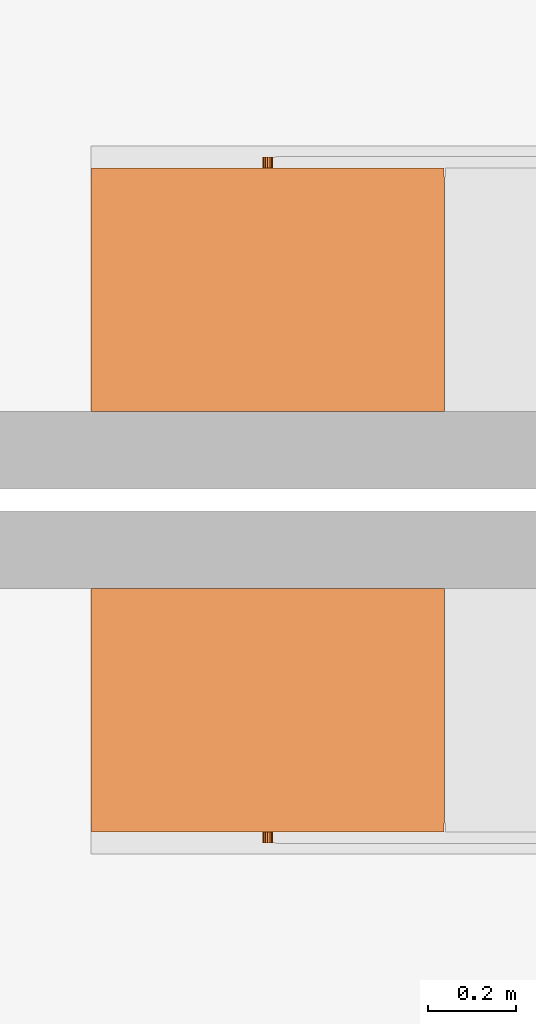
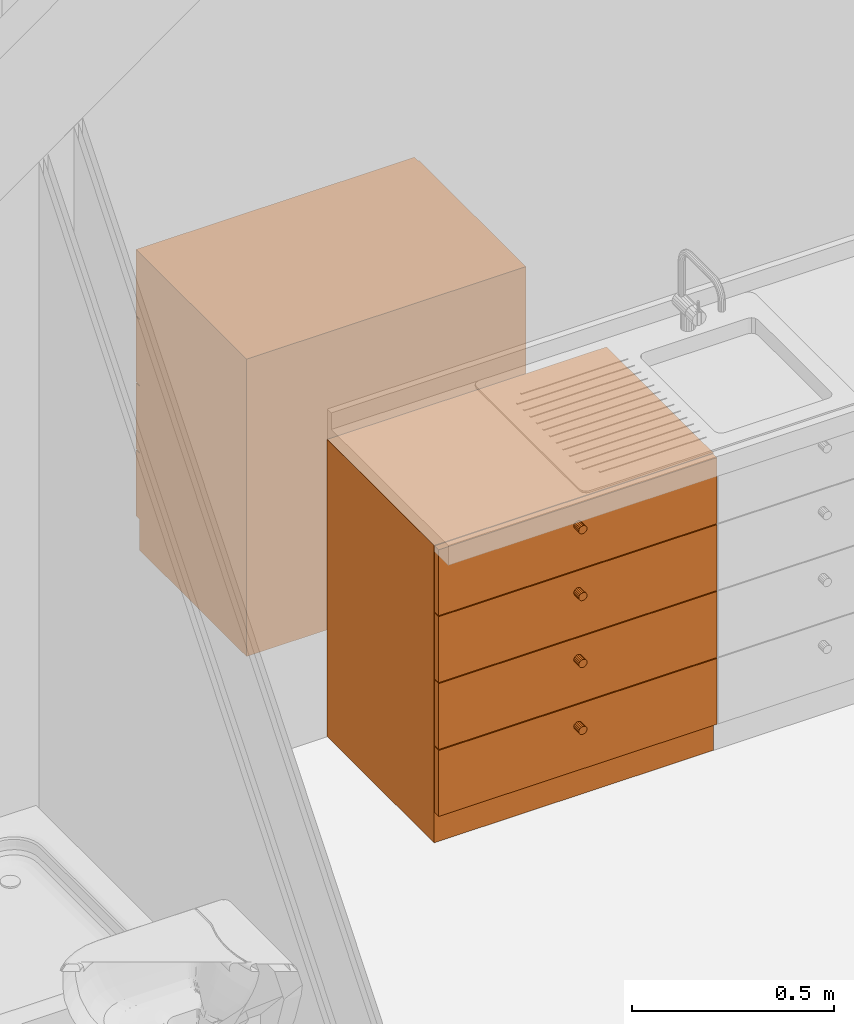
# One storey, part 18 of 28: 2 proxies.
"""IFC4 building model written with IfcOpenShell, lengths in metres."""

from ifc_helpers import new_model, entity, si_unit, converted_unit, derived_unit, direction, frame, origin_with_axes, place, context, subcontext, project, spatial, triangles, type_object, element, save


model = new_model("IFC4")

# Units and contexts
model_context = context("Model", 3, precision=1e-05, world=origin_with_axes(), true_north=direction((-0.526213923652, 0.850352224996)))
body_context = subcontext(model_context, "Body", "Model", "MODEL_VIEW")
ifc_project = project(units=[si_unit("LENGTHUNIT", "METRE"), si_unit("AREAUNIT", "SQUARE_METRE"), si_unit("VOLUMEUNIT", "CUBIC_METRE"), converted_unit("PLANEANGLEUNIT", "DEGREE", entity("IfcPlaneAngleMeasure", 0.0174532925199), si_unit("PLANEANGLEUNIT", "RADIAN"), dimensions=[0, 0, 0, 0, 0, 0, 0]), si_unit("SOLIDANGLEUNIT", "STERADIAN"), converted_unit("TIMEUNIT", "Year", entity("IfcTimeMeasure", 31556926.0), si_unit("TIMEUNIT", "SECOND"), dimensions=[0, 0, 1, 0, 0, 0, 0]), si_unit("MASSUNIT", "GRAM", prefix="KILO"), si_unit("THERMODYNAMICTEMPERATUREUNIT", "DEGREE_CELSIUS"), si_unit("LUMINOUSINTENSITYUNIT", "LUMEN"), si_unit("ENERGYUNIT", "JOULE", prefix="MEGA"), derived_unit("THERMALCONDUCTANCEUNIT", [(si_unit("POWERUNIT", "WATT"), 1), (si_unit("LENGTHUNIT", "METRE"), -1), (si_unit("THERMODYNAMICTEMPERATUREUNIT", "KELVIN"), -1)]), derived_unit("SPECIFICHEATCAPACITYUNIT", [(si_unit("ENERGYUNIT", "JOULE"), 1), (si_unit("MASSUNIT", "GRAM", prefix="KILO"), -1), (si_unit("THERMODYNAMICTEMPERATUREUNIT", "KELVIN"), -1)]), derived_unit("MASSDENSITYUNIT", [(si_unit("MASSUNIT", "GRAM", prefix="KILO"), 1), (si_unit("VOLUMEUNIT", "CUBIC_METRE"), -1)])], contexts=[model_context])

# Site, building, storey, space
site_placement = place(None, origin_with_axes())
site = spatial("IfcSite", under=ifc_project, at=site_placement, Name="Gelände", CompositionType="ELEMENT")
building_placement = place(site_placement, origin_with_axes())
building = spatial("IfcBuilding", under=site, at=building_placement, Name="Haus vom Nikolaus", CompositionType="ELEMENT")
storey_placement = place(building_placement, origin_with_axes())
storey = spatial("IfcBuildingStorey", under=building, at=storey_placement, Name="EG", CompositionType="ELEMENT", Elevation=0.0)
space_placement = place(storey_placement, frame((-3.09538684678, 5.36483190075, 0.0), z_axis=(0.0, 0.0, 1.0), x_axis=(1.0, 0.0, 0.0)))
space = spatial("IfcSpace", under=storey, at=space_placement, Name="EG", CompositionType="ELEMENT")

# Proxies
building_element_proxy_type = type_object("IfcBuildingElementProxyType", Name="Unterschrank Mehrfach-Schublade 22", PredefinedType="NOTDEFINED")
proxy_1_placement = place(space_placement, frame((9.96038446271, 2.87500017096, 0.2), z_axis=(0.0, 0.0, 1.0), x_axis=(-1.0, 0.0, 0.0)))
element("IfcBuildingElementProxy", 1, at=proxy_1_placement, inside=space, type_object=building_element_proxy_type, Name="Küche-005", PredefinedType="NOTDEFINED", context=body_context, shape_type="Tessellation", body=[
    triangles([(0.7985, 0.05, 0.0915), (0.0015, 0.07, 0.0915), (0.7985, 0.07, 0.0915), (0.0015, 0.05, 0.0915), (0.7985, 0.07, 0.291), (0.0015, 0.07, 0.291), (0.7985, 0.05, 0.291), (0.0015, 0.05, 0.291)], [[1, 2, 3], [1, 4, 2], [5, 2, 6], [5, 3, 2], [7, 3, 5], [7, 1, 3], [7, 4, 1], [7, 8, 4], [4, 6, 2], [4, 8, 6], [8, 5, 6], [8, 7, 5]], closed=True),
    triangles([(0.41108655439, 0.05, 0.232092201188), (0.391514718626, 0.05, 0.219014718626), (0.404592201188, 0.05, 0.23858655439), (0.38891344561, 0.05, 0.232092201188), (0.388, 0.05, 0.2275), (0.38891344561, 0.05, 0.222907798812), (0.391514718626, 0.05, 0.235985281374), (0.4, 0.05, 0.2395), (0.395407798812, 0.05, 0.23858655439), (0.408485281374, 0.05, 0.235985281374), (0.41108655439, 0.05, 0.222907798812), (0.412, 0.05, 0.2275), (0.404592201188, 0.05, 0.21641344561), (0.408485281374, 0.05, 0.219014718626), (0.395407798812, 0.05, 0.21641344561), (0.4, 0.05, 0.2155), (0.395407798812, 0.025, 0.21641344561), (0.391514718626, 0.025, 0.219014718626), (0.38891344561, 0.025, 0.222907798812), (0.388, 0.025, 0.2275), (0.38891344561, 0.025, 0.232092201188), (0.391514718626, 0.025, 0.235985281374), (0.395407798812, 0.025, 0.23858655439), (0.4, 0.025, 0.2395), (0.404592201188, 0.025, 0.23858655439), (0.408485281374, 0.025, 0.235985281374), (0.41108655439, 0.025, 0.232092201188), (0.412, 0.025, 0.2275), (0.41108655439, 0.025, 0.222907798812), (0.408485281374, 0.025, 0.219014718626), (0.404592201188, 0.025, 0.21641344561), (0.4, 0.025, 0.2155)], [[1, 2, 3], [4, 2, 5], [5, 2, 6], [7, 2, 4], [8, 7, 9], [3, 7, 8], [1, 3, 10], [7, 3, 2], [11, 1, 12], [1, 11, 2], [13, 11, 14], [2, 11, 15], [16, 11, 13], [11, 16, 15], [17, 2, 15], [17, 18, 2], [18, 6, 2], [18, 19, 6], [19, 5, 6], [19, 20, 5], [20, 4, 5], [20, 21, 4], [21, 7, 4], [21, 22, 7], [22, 9, 7], [22, 23, 9], [23, 8, 9], [23, 24, 8], [24, 3, 8], [24, 25, 3], [25, 10, 3], [25, 26, 10], [26, 1, 10], [26, 27, 1], [27, 12, 1], [27, 28, 12], [28, 11, 12], [28, 29, 11], [30, 11, 29], [11, 30, 14], [30, 13, 14], [30, 31, 13], [31, 16, 13], [31, 32, 16], [32, 15, 16], [32, 17, 15], [22, 19, 25], [18, 32, 30], [30, 32, 31], [27, 18, 29], [27, 29, 28], [18, 27, 19], [22, 25, 24], [25, 27, 26], [22, 24, 23], [19, 22, 21], [19, 21, 20], [25, 19, 27], [29, 18, 30], [32, 18, 17]], closed=True),
    triangles([(0.7985, 0.05, 0.294), (0.0015, 0.07, 0.294), (0.7985, 0.07, 0.294), (0.0015, 0.05, 0.294), (0.7985, 0.07, 0.4935), (0.0015, 0.07, 0.4935), (0.7985, 0.05, 0.4935), (0.0015, 0.05, 0.4935)], [[1, 2, 3], [1, 4, 2], [5, 2, 6], [5, 3, 2], [7, 3, 5], [7, 1, 3], [7, 4, 1], [7, 8, 4], [4, 6, 2], [4, 8, 6], [8, 5, 6], [8, 7, 5]], closed=True),
    triangles([(0.404592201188, 0.05, 0.41891344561), (0.41108655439, 0.05, 0.434592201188), (0.412, 0.05, 0.43), (0.38891344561, 0.05, 0.434592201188), (0.38891344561, 0.05, 0.425407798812), (0.388, 0.05, 0.43), (0.4, 0.05, 0.418), (0.395407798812, 0.05, 0.44108655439), (0.391514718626, 0.05, 0.438485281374), (0.404592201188, 0.05, 0.44108655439), (0.408485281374, 0.05, 0.438485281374), (0.4, 0.05, 0.442), (0.41108655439, 0.05, 0.425407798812), (0.408485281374, 0.05, 0.421514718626), (0.391514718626, 0.05, 0.421514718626), (0.395407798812, 0.05, 0.41891344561), (0.395407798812, 0.025, 0.41891344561), (0.391514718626, 0.025, 0.421514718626), (0.38891344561, 0.025, 0.425407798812), (0.388, 0.025, 0.43), (0.38891344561, 0.025, 0.434592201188), (0.391514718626, 0.025, 0.438485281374), (0.395407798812, 0.025, 0.44108655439), (0.4, 0.025, 0.442), (0.404592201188, 0.025, 0.44108655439), (0.408485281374, 0.025, 0.438485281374), (0.41108655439, 0.025, 0.434592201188), (0.412, 0.025, 0.43), (0.41108655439, 0.025, 0.425407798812), (0.408485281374, 0.025, 0.421514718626), (0.404592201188, 0.025, 0.41891344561), (0.4, 0.025, 0.418)], [[1, 2, 3], [4, 5, 6], [7, 5, 1], [1, 5, 4], [8, 4, 9], [10, 4, 8], [2, 10, 11], [10, 8, 12], [2, 1, 10], [10, 1, 4], [13, 1, 3], [1, 13, 14], [5, 7, 15], [15, 7, 16], [17, 15, 16], [17, 18, 15], [18, 5, 15], [18, 19, 5], [19, 6, 5], [19, 20, 6], [20, 4, 6], [20, 21, 4], [21, 9, 4], [21, 22, 9], [22, 8, 9], [22, 23, 8], [23, 12, 8], [23, 24, 12], [24, 10, 12], [24, 25, 10], [25, 11, 10], [25, 26, 11], [26, 2, 11], [26, 27, 2], [27, 3, 2], [27, 28, 3], [28, 13, 3], [28, 29, 13], [30, 13, 29], [13, 30, 14], [30, 1, 14], [30, 31, 1], [31, 7, 1], [31, 32, 7], [32, 16, 7], [32, 17, 16], [21, 25, 24], [29, 31, 30], [29, 32, 31], [18, 32, 29], [21, 29, 28], [21, 23, 22], [21, 24, 23], [25, 27, 26], [25, 21, 27], [27, 21, 28], [19, 21, 20], [18, 29, 21], [18, 21, 19], [32, 18, 17]], closed=True),
    triangles([(0.78, 0.07, 0.3125), (0.02, 0.07, 0.2925), (0.78, 0.07, 0.2925), (0.02, 0.07, 0.3125), (0.78, 0.58, 0.2925), (0.02, 0.58, 0.2925), (0.78, 0.58, 0.3125), (0.02, 0.58, 0.3125)], [[1, 2, 3], [1, 4, 2], [5, 2, 6], [5, 3, 2], [7, 3, 5], [7, 1, 3], [7, 4, 1], [7, 8, 4], [4, 6, 2], [4, 8, 6], [8, 5, 6], [8, 7, 5]], closed=True),
    triangles([(0.7985, 0.05, 0.4965), (0.0015, 0.07, 0.4965), (0.7985, 0.07, 0.4965), (0.0015, 0.05, 0.4965), (0.7985, 0.07, 0.696), (0.0015, 0.07, 0.696), (0.7985, 0.05, 0.696), (0.0015, 0.05, 0.696)], [[1, 2, 3], [1, 4, 2], [5, 2, 6], [5, 3, 2], [7, 3, 5], [7, 1, 3], [7, 4, 1], [7, 8, 4], [4, 6, 2], [4, 8, 6], [8, 5, 6], [8, 7, 5]], closed=True),
    triangles([(0.391514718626, 0.05, 0.624014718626), (0.404592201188, 0.05, 0.64358655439), (0.395407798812, 0.05, 0.62141344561), (0.38891344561, 0.05, 0.637092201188), (0.388, 0.05, 0.6325), (0.38891344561, 0.05, 0.627907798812), (0.395407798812, 0.05, 0.64358655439), (0.391514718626, 0.05, 0.640985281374), (0.41108655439, 0.05, 0.637092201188), (0.408485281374, 0.05, 0.640985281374), (0.4, 0.05, 0.6445), (0.412, 0.05, 0.6325), (0.404592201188, 0.05, 0.62141344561), (0.41108655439, 0.05, 0.627907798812), (0.408485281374, 0.05, 0.624014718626), (0.4, 0.05, 0.6205), (0.395407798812, 0.025, 0.62141344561), (0.391514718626, 0.025, 0.624014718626), (0.38891344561, 0.025, 0.627907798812), (0.388, 0.025, 0.6325), (0.38891344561, 0.025, 0.637092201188), (0.391514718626, 0.025, 0.640985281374), (0.395407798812, 0.025, 0.64358655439), (0.4, 0.025, 0.6445), (0.404592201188, 0.025, 0.64358655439), (0.408485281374, 0.025, 0.640985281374), (0.41108655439, 0.025, 0.637092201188), (0.412, 0.025, 0.6325), (0.41108655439, 0.025, 0.627907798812), (0.408485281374, 0.025, 0.624014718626), (0.404592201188, 0.025, 0.62141344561), (0.4, 0.025, 0.6205)], [[1, 2, 3], [4, 1, 5], [5, 1, 6], [7, 4, 8], [4, 7, 1], [2, 1, 7], [9, 2, 10], [2, 7, 11], [12, 2, 9], [13, 2, 12], [14, 13, 12], [13, 14, 15], [2, 13, 3], [16, 3, 13], [17, 1, 3], [17, 18, 1], [18, 6, 1], [18, 19, 6], [19, 5, 6], [19, 20, 5], [20, 4, 5], [20, 21, 4], [21, 8, 4], [21, 22, 8], [22, 7, 8], [22, 23, 7], [23, 11, 7], [23, 24, 11], [24, 2, 11], [24, 25, 2], [25, 10, 2], [25, 26, 10], [26, 9, 10], [26, 27, 9], [27, 12, 9], [27, 28, 12], [28, 14, 12], [28, 29, 14], [30, 14, 29], [14, 30, 15], [30, 13, 15], [30, 31, 13], [31, 16, 13], [31, 32, 16], [32, 3, 16], [32, 17, 3], [30, 25, 17], [32, 30, 17], [30, 32, 31], [25, 30, 29], [25, 28, 27], [28, 25, 29], [23, 25, 24], [25, 27, 26], [22, 25, 23], [20, 25, 22], [18, 25, 20], [20, 22, 21], [18, 20, 19], [25, 18, 17]], closed=True),
    triangles([(0.78, 0.07, 0.515), (0.02, 0.07, 0.495), (0.78, 0.07, 0.495), (0.02, 0.07, 0.515), (0.78, 0.58, 0.495), (0.02, 0.58, 0.495), (0.78, 0.58, 0.515), (0.02, 0.58, 0.515)], [[1, 2, 3], [1, 4, 2], [5, 2, 6], [5, 3, 2], [7, 3, 5], [7, 1, 3], [7, 4, 1], [7, 8, 4], [4, 6, 2], [4, 8, 6], [8, 5, 6], [8, 7, 5]], closed=True),
    triangles([(0.7985, 0.05, 0.699), (0.0015, 0.07, 0.699), (0.7985, 0.07, 0.699), (0.0015, 0.05, 0.699), (0.7985, 0.07, 0.8985), (0.0015, 0.07, 0.8985), (0.7985, 0.05, 0.8985), (0.0015, 0.05, 0.8985)], [[1, 2, 3], [1, 4, 2], [5, 2, 6], [5, 3, 2], [7, 3, 5], [7, 1, 3], [7, 4, 1], [7, 8, 4], [4, 6, 2], [4, 8, 6], [8, 5, 6], [8, 7, 5]], closed=True),
    triangles([(0.404592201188, 0.05, 0.84608655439), (0.395407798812, 0.05, 0.82391344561), (0.4, 0.05, 0.847), (0.388, 0.05, 0.835), (0.38891344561, 0.05, 0.830407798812), (0.391514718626, 0.05, 0.826514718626), (0.391514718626, 0.05, 0.843485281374), (0.38891344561, 0.05, 0.839592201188), (0.395407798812, 0.05, 0.84608655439), (0.41108655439, 0.05, 0.839592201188), (0.408485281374, 0.05, 0.843485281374), (0.404592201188, 0.05, 0.82391344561), (0.412, 0.05, 0.835), (0.41108655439, 0.05, 0.830407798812), (0.408485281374, 0.05, 0.826514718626), (0.4, 0.05, 0.823), (0.395407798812, 0.025, 0.82391344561), (0.391514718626, 0.025, 0.826514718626), (0.38891344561, 0.025, 0.830407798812), (0.388, 0.025, 0.835), (0.38891344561, 0.025, 0.839592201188), (0.391514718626, 0.025, 0.843485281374), (0.395407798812, 0.025, 0.84608655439), (0.4, 0.025, 0.847), (0.404592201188, 0.025, 0.84608655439), (0.408485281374, 0.025, 0.843485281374), (0.41108655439, 0.025, 0.839592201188), (0.412, 0.025, 0.835), (0.41108655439, 0.025, 0.830407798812), (0.408485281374, 0.025, 0.826514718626), (0.404592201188, 0.025, 0.82391344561), (0.4, 0.025, 0.823)], [[1, 2, 3], [4, 2, 5], [5, 2, 6], [7, 4, 8], [9, 4, 7], [4, 9, 2], [10, 1, 11], [9, 3, 2], [1, 10, 2], [12, 13, 14], [12, 14, 15], [13, 12, 10], [10, 12, 2], [16, 2, 12], [17, 6, 2], [17, 18, 6], [18, 5, 6], [18, 19, 5], [19, 4, 5], [19, 20, 4], [20, 8, 4], [20, 21, 8], [21, 7, 8], [21, 22, 7], [22, 9, 7], [22, 23, 9], [23, 3, 9], [23, 24, 3], [24, 1, 3], [24, 25, 1], [25, 11, 1], [25, 26, 11], [26, 10, 11], [26, 27, 10], [27, 13, 10], [27, 28, 13], [28, 14, 13], [28, 29, 14], [30, 14, 29], [14, 30, 15], [30, 12, 15], [30, 31, 12], [31, 16, 12], [31, 32, 16], [32, 2, 16], [32, 17, 2], [29, 25, 17], [29, 31, 30], [31, 17, 32], [31, 29, 17], [25, 28, 27], [25, 27, 26], [23, 25, 24], [28, 25, 29], [22, 25, 23], [20, 25, 22], [25, 20, 17], [20, 22, 21], [18, 20, 19], [20, 18, 17]], closed=True),
    triangles([(0.78, 0.07, 0.7175), (0.02, 0.07, 0.6975), (0.78, 0.07, 0.6975), (0.02, 0.07, 0.7175), (0.78, 0.58, 0.6975), (0.02, 0.58, 0.6975), (0.78, 0.58, 0.7175), (0.02, 0.58, 0.7175)], [[1, 2, 3], [1, 4, 2], [5, 2, 6], [5, 3, 2], [7, 3, 5], [7, 1, 3], [7, 4, 1], [7, 8, 4], [4, 6, 2], [4, 8, 6], [8, 5, 6], [8, 7, 5]], closed=True),
    triangles([(0.8, 0.07, 0.09), (0.0, 0.07, 0.0), (0.8, 0.07, 0.0), (0.0, 0.07, 0.09), (0.8, 0.6, 0.0), (0.0, 0.6, 0.0), (0.8, 0.6, 0.09), (0.0, 0.6, 0.09)], [[1, 2, 3], [1, 4, 2], [5, 2, 6], [5, 3, 2], [7, 3, 5], [7, 1, 3], [7, 4, 1], [7, 8, 4], [4, 6, 2], [4, 8, 6], [8, 5, 6], [8, 7, 5]], closed=True),
    triangles([(0.02, 0.07, 0.9), (0.0, 0.07, 0.88), (0.02, 0.07, 0.88), (0.0, 0.07, 0.9), (0.02, 0.6, 0.88), (0.78, 0.07, 0.88), (0.78, 0.6, 0.88), (0.0, 0.6, 0.88), (0.8, 0.07, 0.88), (0.8, 0.6, 0.88), (0.78, 0.07, 0.9), (0.0, 0.6, 0.9), (0.02, 0.6, 0.9), (0.78, 0.6, 0.9), (0.8, 0.6, 0.9), (0.8, 0.07, 0.9)], [[1, 2, 3], [1, 4, 2], [3, 2, 5], [6, 5, 7], [5, 2, 8], [9, 7, 10], [6, 7, 9], [3, 5, 6], [11, 3, 6], [11, 1, 3], [12, 4, 13], [14, 11, 15], [11, 14, 1], [15, 11, 16], [1, 13, 4], [13, 1, 14], [4, 8, 2], [4, 12, 8], [12, 5, 8], [12, 13, 5], [13, 7, 5], [13, 14, 7], [14, 10, 7], [14, 15, 10], [15, 9, 10], [15, 16, 9], [16, 6, 9], [16, 11, 6]], closed=True),
    triangles([(0.02, 0.07, 0.11), (0.0, 0.07, 0.09), (0.02, 0.07, 0.09), (0.0, 0.07, 0.11), (0.02, 0.6, 0.09), (0.78, 0.07, 0.09), (0.78, 0.6, 0.09), (0.0, 0.6, 0.09), (0.8, 0.07, 0.09), (0.8, 0.6, 0.09), (0.78, 0.07, 0.11), (0.0, 0.6, 0.11), (0.02, 0.6, 0.11), (0.78, 0.6, 0.11), (0.8, 0.6, 0.11), (0.8, 0.07, 0.11)], [[1, 2, 3], [1, 4, 2], [3, 2, 5], [6, 5, 7], [5, 2, 8], [9, 7, 10], [6, 7, 9], [3, 5, 6], [11, 3, 6], [11, 1, 3], [12, 4, 13], [14, 11, 15], [11, 14, 1], [15, 11, 16], [1, 13, 4], [13, 1, 14], [4, 8, 2], [4, 12, 8], [12, 5, 8], [12, 13, 5], [13, 7, 5], [13, 14, 7], [14, 10, 7], [14, 15, 10], [15, 9, 10], [15, 16, 9], [16, 6, 9], [16, 11, 6]], closed=True),
    triangles([(0.02, 0.07, 0.88), (0.0, 0.07, 0.11), (0.02, 0.07, 0.11), (0.0, 0.07, 0.88), (0.02, 0.58, 0.11), (0.78, 0.58, 0.11), (0.8, 0.07, 0.11), (0.78, 0.07, 0.11), (0.0, 0.6, 0.11), (0.8, 0.6, 0.11), (0.02, 0.58, 0.88), (0.0, 0.6, 0.88), (0.8, 0.6, 0.88), (0.78, 0.58, 0.88), (0.8, 0.07, 0.88), (0.78, 0.07, 0.88)], [[1, 2, 3], [1, 4, 2], [3, 2, 5], [6, 7, 8], [6, 9, 10], [7, 6, 10], [5, 2, 9], [6, 5, 9], [11, 3, 5], [11, 1, 3], [12, 4, 11], [13, 12, 11], [11, 4, 1], [13, 11, 14], [15, 13, 14], [15, 14, 16], [4, 9, 2], [4, 12, 9], [12, 10, 9], [12, 13, 10], [13, 7, 10], [13, 15, 7], [15, 8, 7], [15, 16, 8], [16, 6, 8], [16, 14, 6], [14, 5, 6], [14, 11, 5]], closed=True),
])
proxy_2_placement = place(space_placement, frame((9.96038446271, 1.27500017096, 0.2), z_axis=(0.0, 0.0, 1.0), x_axis=(1.0, 0.0, 0.0)))
element("IfcBuildingElementProxy", 2, at=proxy_2_placement, inside=space, type_object=building_element_proxy_type, Name="Küche-005", PredefinedType="NOTDEFINED", context=body_context, shape_type="Tessellation", body=[
    triangles([(-0.7985, 0.05, 0.0915), (-0.0015, 0.07, 0.0915), (-0.0015, 0.05, 0.0915), (-0.7985, 0.07, 0.0915), (-0.0015, 0.07, 0.291), (-0.0015, 0.05, 0.291), (-0.7985, 0.05, 0.291), (-0.7985, 0.07, 0.291)], [[1, 2, 3], [1, 4, 2], [3, 5, 6], [3, 2, 5], [7, 3, 6], [7, 1, 3], [7, 4, 1], [7, 8, 4], [8, 2, 4], [8, 5, 2], [6, 8, 7], [6, 5, 8]], closed=True),
    triangles([(-0.391514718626, 0.05, 0.235985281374), (-0.38891344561, 0.05, 0.222907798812), (-0.404592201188, 0.05, 0.23858655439), (-0.391514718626, 0.05, 0.219014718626), (-0.4, 0.05, 0.2155), (-0.408485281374, 0.05, 0.219014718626), (-0.404592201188, 0.05, 0.21641344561), (-0.41108655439, 0.05, 0.232092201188), (-0.41108655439, 0.05, 0.222907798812), (-0.412, 0.05, 0.2275), (-0.4, 0.05, 0.2395), (-0.408485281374, 0.05, 0.235985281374), (-0.395407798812, 0.05, 0.23858655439), (-0.38891344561, 0.05, 0.232092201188), (-0.388, 0.05, 0.2275), (-0.395407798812, 0.05, 0.21641344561), (-0.4, 0.025, 0.2155), (-0.395407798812, 0.025, 0.21641344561), (-0.404592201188, 0.025, 0.21641344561), (-0.408485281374, 0.025, 0.219014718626), (-0.41108655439, 0.025, 0.222907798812), (-0.412, 0.025, 0.2275), (-0.41108655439, 0.025, 0.232092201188), (-0.408485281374, 0.025, 0.235985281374), (-0.404592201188, 0.025, 0.23858655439), (-0.4, 0.025, 0.2395), (-0.395407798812, 0.025, 0.23858655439), (-0.391514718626, 0.025, 0.235985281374), (-0.38891344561, 0.025, 0.232092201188), (-0.388, 0.025, 0.2275), (-0.38891344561, 0.025, 0.222907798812), (-0.391514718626, 0.025, 0.219014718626)], [[1, 2, 3], [4, 5, 6], [6, 5, 7], [8, 4, 9], [8, 9, 10], [4, 8, 2], [1, 3, 11], [3, 8, 12], [1, 11, 13], [2, 1, 14], [2, 14, 15], [3, 2, 8], [9, 4, 6], [5, 4, 16], [17, 16, 18], [17, 5, 16], [19, 5, 17], [19, 7, 5], [20, 7, 19], [20, 6, 7], [9, 20, 21], [20, 9, 6], [22, 9, 21], [22, 10, 9], [23, 10, 22], [23, 8, 10], [24, 8, 23], [24, 12, 8], [25, 12, 24], [25, 3, 12], [26, 3, 25], [26, 11, 3], [27, 11, 26], [27, 13, 11], [28, 13, 27], [28, 1, 13], [29, 1, 28], [29, 14, 1], [30, 14, 29], [30, 15, 14], [31, 15, 30], [31, 2, 15], [32, 2, 31], [32, 4, 2], [18, 4, 32], [18, 16, 4], [23, 32, 25], [29, 32, 30], [30, 32, 31], [28, 32, 29], [26, 28, 27], [25, 28, 26], [23, 25, 24], [28, 25, 32], [21, 23, 22], [23, 21, 32], [19, 21, 20], [32, 21, 18], [17, 21, 19], [21, 17, 18]], closed=True),
    triangles([(-0.7985, 0.05, 0.294), (-0.0015, 0.07, 0.294), (-0.0015, 0.05, 0.294), (-0.7985, 0.07, 0.294), (-0.0015, 0.07, 0.4935), (-0.0015, 0.05, 0.4935), (-0.7985, 0.05, 0.4935), (-0.7985, 0.07, 0.4935)], [[1, 2, 3], [1, 4, 2], [3, 5, 6], [3, 2, 5], [7, 3, 6], [7, 1, 3], [7, 4, 1], [7, 8, 4], [8, 2, 4], [8, 5, 2], [6, 8, 7], [6, 5, 8]], closed=True),
    triangles([(-0.38891344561, 0.05, 0.434592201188), (-0.404592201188, 0.05, 0.44108655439), (-0.4, 0.05, 0.442), (-0.41108655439, 0.05, 0.425407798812), (-0.404592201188, 0.05, 0.41891344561), (-0.408485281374, 0.05, 0.421514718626), (-0.4, 0.05, 0.418), (-0.391514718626, 0.05, 0.421514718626), (-0.412, 0.05, 0.43), (-0.395407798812, 0.05, 0.44108655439), (-0.391514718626, 0.05, 0.438485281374), (-0.41108655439, 0.05, 0.434592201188), (-0.408485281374, 0.05, 0.438485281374), (-0.38891344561, 0.05, 0.425407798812), (-0.388, 0.05, 0.43), (-0.395407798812, 0.05, 0.41891344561), (-0.4, 0.025, 0.418), (-0.395407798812, 0.025, 0.41891344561), (-0.404592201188, 0.025, 0.41891344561), (-0.408485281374, 0.025, 0.421514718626), (-0.41108655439, 0.025, 0.425407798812), (-0.412, 0.025, 0.43), (-0.41108655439, 0.025, 0.434592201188), (-0.408485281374, 0.025, 0.438485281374), (-0.404592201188, 0.025, 0.44108655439), (-0.4, 0.025, 0.442), (-0.395407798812, 0.025, 0.44108655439), (-0.391514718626, 0.025, 0.438485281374), (-0.38891344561, 0.025, 0.434592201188), (-0.388, 0.025, 0.43), (-0.38891344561, 0.025, 0.425407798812), (-0.391514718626, 0.025, 0.421514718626)], [[1, 2, 3], [4, 5, 6], [4, 7, 5], [8, 7, 4], [1, 4, 9], [1, 10, 11], [1, 3, 10], [2, 12, 13], [2, 1, 12], [12, 1, 9], [14, 1, 15], [8, 4, 1], [8, 1, 14], [7, 8, 16], [17, 16, 18], [17, 7, 16], [19, 7, 17], [19, 5, 7], [20, 5, 19], [20, 6, 5], [4, 20, 21], [20, 4, 6], [22, 4, 21], [22, 9, 4], [23, 9, 22], [23, 12, 9], [24, 12, 23], [24, 13, 12], [25, 13, 24], [25, 2, 13], [26, 2, 25], [26, 3, 2], [27, 3, 26], [27, 10, 3], [28, 10, 27], [28, 11, 10], [29, 11, 28], [29, 1, 11], [30, 1, 29], [30, 15, 1], [31, 15, 30], [31, 14, 15], [32, 14, 31], [32, 8, 14], [18, 8, 32], [18, 16, 8], [19, 23, 22], [29, 31, 30], [17, 31, 19], [19, 31, 29], [27, 29, 28], [25, 29, 27], [23, 25, 24], [25, 27, 26], [23, 19, 25], [25, 19, 29], [21, 19, 22], [19, 21, 20], [31, 17, 32], [32, 17, 18]], closed=True),
    triangles([(-0.78, 0.07, 0.3125), (-0.02, 0.07, 0.2925), (-0.02, 0.07, 0.3125), (-0.78, 0.07, 0.2925), (-0.02, 0.58, 0.2925), (-0.02, 0.58, 0.3125), (-0.78, 0.58, 0.3125), (-0.78, 0.58, 0.2925)], [[1, 2, 3], [1, 4, 2], [3, 5, 6], [3, 2, 5], [7, 3, 6], [7, 1, 3], [7, 4, 1], [7, 8, 4], [8, 2, 4], [8, 5, 2], [6, 8, 7], [6, 5, 8]], closed=True),
    triangles([(-0.7985, 0.05, 0.4965), (-0.0015, 0.07, 0.4965), (-0.0015, 0.05, 0.4965), (-0.7985, 0.07, 0.4965), (-0.0015, 0.07, 0.696), (-0.0015, 0.05, 0.696), (-0.7985, 0.05, 0.696), (-0.7985, 0.07, 0.696)], [[1, 2, 3], [1, 4, 2], [3, 5, 6], [3, 2, 5], [7, 3, 6], [7, 1, 3], [7, 4, 1], [7, 8, 4], [8, 2, 4], [8, 5, 2], [6, 8, 7], [6, 5, 8]], closed=True),
    triangles([(-0.408485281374, 0.05, 0.624014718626), (-0.404592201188, 0.05, 0.64358655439), (-0.395407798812, 0.05, 0.62141344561), (-0.4, 0.05, 0.6205), (-0.404592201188, 0.05, 0.62141344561), (-0.41108655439, 0.05, 0.627907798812), (-0.412, 0.05, 0.6325), (-0.41108655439, 0.05, 0.637092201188), (-0.395407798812, 0.05, 0.64358655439), (-0.4, 0.05, 0.6445), (-0.408485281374, 0.05, 0.640985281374), (-0.391514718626, 0.05, 0.640985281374), (-0.388, 0.05, 0.6325), (-0.391514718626, 0.05, 0.624014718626), (-0.38891344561, 0.05, 0.637092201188), (-0.38891344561, 0.05, 0.627907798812), (-0.4, 0.025, 0.6205), (-0.395407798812, 0.025, 0.62141344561), (-0.404592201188, 0.025, 0.62141344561), (-0.408485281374, 0.025, 0.624014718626), (-0.41108655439, 0.025, 0.627907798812), (-0.412, 0.025, 0.6325), (-0.41108655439, 0.025, 0.637092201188), (-0.408485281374, 0.025, 0.640985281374), (-0.404592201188, 0.025, 0.64358655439), (-0.4, 0.025, 0.6445), (-0.395407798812, 0.025, 0.64358655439), (-0.391514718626, 0.025, 0.640985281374), (-0.38891344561, 0.025, 0.637092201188), (-0.388, 0.025, 0.6325), (-0.38891344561, 0.025, 0.627907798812), (-0.391514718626, 0.025, 0.624014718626)], [[1, 2, 3], [4, 1, 3], [1, 4, 5], [2, 1, 6], [2, 7, 8], [7, 2, 6], [9, 2, 10], [2, 8, 11], [12, 2, 9], [13, 2, 12], [14, 2, 13], [13, 12, 15], [14, 13, 16], [2, 14, 3], [17, 3, 18], [17, 4, 3], [19, 4, 17], [19, 5, 4], [20, 5, 19], [20, 1, 5], [6, 20, 21], [20, 6, 1], [22, 6, 21], [22, 7, 6], [23, 7, 22], [23, 8, 7], [24, 8, 23], [24, 11, 8], [25, 11, 24], [25, 2, 11], [26, 2, 25], [26, 10, 2], [27, 10, 26], [27, 9, 10], [28, 9, 27], [28, 12, 9], [29, 12, 28], [29, 15, 12], [30, 15, 29], [30, 13, 15], [31, 13, 30], [31, 16, 13], [32, 16, 31], [32, 14, 16], [18, 14, 32], [18, 3, 14], [32, 25, 18], [29, 32, 30], [30, 32, 31], [27, 29, 28], [29, 27, 32], [25, 32, 27], [23, 25, 24], [25, 27, 26], [22, 25, 23], [19, 25, 22], [21, 19, 22], [19, 21, 20], [25, 19, 18], [17, 18, 19]], closed=True),
    triangles([(-0.78, 0.07, 0.515), (-0.02, 0.07, 0.495), (-0.02, 0.07, 0.515), (-0.78, 0.07, 0.495), (-0.02, 0.58, 0.495), (-0.02, 0.58, 0.515), (-0.78, 0.58, 0.515), (-0.78, 0.58, 0.495)], [[1, 2, 3], [1, 4, 2], [3, 5, 6], [3, 2, 5], [7, 3, 6], [7, 1, 3], [7, 4, 1], [7, 8, 4], [8, 2, 4], [8, 5, 2], [6, 8, 7], [6, 5, 8]], closed=True),
    triangles([(-0.7985, 0.05, 0.699), (-0.0015, 0.07, 0.699), (-0.0015, 0.05, 0.699), (-0.7985, 0.07, 0.699), (-0.0015, 0.07, 0.8985), (-0.0015, 0.05, 0.8985), (-0.7985, 0.05, 0.8985), (-0.7985, 0.07, 0.8985)], [[1, 2, 3], [1, 4, 2], [3, 5, 6], [3, 2, 5], [7, 3, 6], [7, 1, 3], [7, 4, 1], [7, 8, 4], [8, 2, 4], [8, 5, 2], [6, 8, 7], [6, 5, 8]], closed=True),
    triangles([(-0.41108655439, 0.05, 0.830407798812), (-0.404592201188, 0.05, 0.84608655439), (-0.395407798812, 0.05, 0.82391344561), (-0.404592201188, 0.05, 0.82391344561), (-0.408485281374, 0.05, 0.826514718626), (-0.4, 0.05, 0.823), (-0.412, 0.05, 0.835), (-0.41108655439, 0.05, 0.839592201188), (-0.408485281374, 0.05, 0.843485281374), (-0.395407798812, 0.05, 0.84608655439), (-0.4, 0.05, 0.847), (-0.391514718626, 0.05, 0.843485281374), (-0.388, 0.05, 0.835), (-0.38891344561, 0.05, 0.839592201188), (-0.391514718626, 0.05, 0.826514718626), (-0.38891344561, 0.05, 0.830407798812), (-0.4, 0.025, 0.823), (-0.395407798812, 0.025, 0.82391344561), (-0.404592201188, 0.025, 0.82391344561), (-0.408485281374, 0.025, 0.826514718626), (-0.41108655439, 0.025, 0.830407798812), (-0.412, 0.025, 0.835), (-0.41108655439, 0.025, 0.839592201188), (-0.408485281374, 0.025, 0.843485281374), (-0.404592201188, 0.025, 0.84608655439), (-0.4, 0.025, 0.847), (-0.395407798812, 0.025, 0.84608655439), (-0.391514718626, 0.025, 0.843485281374), (-0.38891344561, 0.025, 0.839592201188), (-0.388, 0.025, 0.835), (-0.38891344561, 0.025, 0.830407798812), (-0.391514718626, 0.025, 0.826514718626)], [[1, 2, 3], [1, 4, 5], [4, 3, 6], [4, 1, 3], [2, 7, 8], [2, 8, 9], [10, 2, 11], [7, 2, 1], [12, 2, 10], [13, 2, 12], [2, 13, 3], [13, 12, 14], [15, 13, 16], [13, 15, 3], [17, 3, 18], [17, 6, 3], [19, 6, 17], [19, 4, 6], [20, 4, 19], [20, 5, 4], [1, 20, 21], [20, 1, 5], [22, 1, 21], [22, 7, 1], [23, 7, 22], [23, 8, 7], [24, 8, 23], [24, 9, 8], [25, 9, 24], [25, 2, 9], [26, 2, 25], [26, 11, 2], [27, 11, 26], [27, 10, 11], [28, 10, 27], [28, 12, 10], [29, 12, 28], [29, 14, 12], [30, 14, 29], [30, 13, 14], [31, 13, 30], [31, 16, 13], [32, 16, 31], [32, 15, 16], [18, 15, 32], [18, 3, 15], [25, 18, 26], [30, 18, 31], [31, 18, 32], [28, 30, 29], [27, 30, 28], [30, 27, 18], [23, 25, 24], [27, 26, 18], [25, 23, 18], [19, 22, 21], [19, 21, 20], [22, 19, 23], [23, 19, 18], [17, 18, 19]], closed=True),
    triangles([(-0.78, 0.07, 0.7175), (-0.02, 0.07, 0.6975), (-0.02, 0.07, 0.7175), (-0.78, 0.07, 0.6975), (-0.02, 0.58, 0.6975), (-0.02, 0.58, 0.7175), (-0.78, 0.58, 0.7175), (-0.78, 0.58, 0.6975)], [[1, 2, 3], [1, 4, 2], [3, 5, 6], [3, 2, 5], [7, 3, 6], [7, 1, 3], [7, 4, 1], [7, 8, 4], [8, 2, 4], [8, 5, 2], [6, 8, 7], [6, 5, 8]], closed=True),
    triangles([(-0.8, 0.07, 0.09), (0.0, 0.07, 0.0), (0.0, 0.07, 0.09), (-0.8, 0.07, 0.0), (0.0, 0.6, 0.0), (0.0, 0.6, 0.09), (-0.8, 0.6, 0.09), (-0.8, 0.6, 0.0)], [[1, 2, 3], [1, 4, 2], [3, 5, 6], [3, 2, 5], [7, 3, 6], [7, 1, 3], [7, 4, 1], [7, 8, 4], [8, 2, 4], [8, 5, 2], [6, 8, 7], [6, 5, 8]], closed=True),
    triangles([(-0.02, 0.07, 0.9), (0.0, 0.07, 0.88), (0.0, 0.07, 0.9), (-0.02, 0.07, 0.88), (0.0, 0.6, 0.88), (0.0, 0.6, 0.9), (-0.02, 0.6, 0.9), (-0.78, 0.07, 0.9), (-0.78, 0.6, 0.9), (-0.8, 0.07, 0.9), (-0.8, 0.6, 0.9), (-0.78, 0.07, 0.88), (-0.02, 0.6, 0.88), (-0.78, 0.6, 0.88), (-0.8, 0.6, 0.88), (-0.8, 0.07, 0.88)], [[1, 2, 3], [1, 4, 2], [3, 5, 6], [3, 2, 5], [1, 3, 7], [8, 7, 9], [7, 3, 6], [10, 9, 11], [8, 9, 10], [1, 7, 8], [8, 4, 1], [8, 12, 4], [5, 2, 13], [14, 12, 15], [12, 14, 4], [15, 12, 16], [4, 13, 2], [13, 4, 14], [6, 13, 7], [6, 5, 13], [7, 14, 9], [7, 13, 14], [9, 15, 11], [9, 14, 15], [11, 16, 10], [11, 15, 16], [10, 12, 8], [10, 16, 12]], closed=True),
    triangles([(-0.02, 0.07, 0.11), (0.0, 0.07, 0.09), (0.0, 0.07, 0.11), (-0.02, 0.07, 0.09), (0.0, 0.6, 0.09), (0.0, 0.6, 0.11), (-0.02, 0.6, 0.11), (-0.78, 0.07, 0.11), (-0.78, 0.6, 0.11), (-0.8, 0.07, 0.11), (-0.8, 0.6, 0.11), (-0.78, 0.07, 0.09), (-0.02, 0.6, 0.09), (-0.78, 0.6, 0.09), (-0.8, 0.6, 0.09), (-0.8, 0.07, 0.09)], [[1, 2, 3], [1, 4, 2], [3, 5, 6], [3, 2, 5], [1, 3, 7], [8, 7, 9], [7, 3, 6], [10, 9, 11], [8, 9, 10], [1, 7, 8], [8, 4, 1], [8, 12, 4], [5, 2, 13], [14, 12, 15], [12, 14, 4], [15, 12, 16], [4, 13, 2], [13, 4, 14], [6, 13, 7], [6, 5, 13], [7, 14, 9], [7, 13, 14], [9, 15, 11], [9, 14, 15], [11, 16, 10], [11, 15, 16], [10, 12, 8], [10, 16, 12]], closed=True),
    triangles([(-0.02, 0.07, 0.88), (0.0, 0.07, 0.11), (0.0, 0.07, 0.88), (-0.02, 0.07, 0.11), (0.0, 0.6, 0.11), (0.0, 0.6, 0.88), (-0.02, 0.58, 0.88), (-0.78, 0.58, 0.88), (-0.8, 0.07, 0.88), (-0.78, 0.07, 0.88), (-0.8, 0.6, 0.88), (-0.02, 0.58, 0.11), (-0.8, 0.6, 0.11), (-0.78, 0.58, 0.11), (-0.8, 0.07, 0.11), (-0.78, 0.07, 0.11)], [[1, 2, 3], [1, 4, 2], [3, 5, 6], [3, 2, 5], [1, 3, 7], [8, 9, 10], [8, 6, 11], [9, 8, 11], [7, 3, 6], [8, 7, 6], [7, 4, 1], [7, 12, 4], [5, 2, 12], [13, 5, 12], [12, 2, 4], [13, 12, 14], [15, 13, 14], [15, 14, 16], [6, 13, 11], [6, 5, 13], [11, 15, 9], [11, 13, 15], [9, 16, 10], [9, 15, 16], [10, 14, 8], [10, 16, 14], [8, 12, 7], [8, 14, 12]], closed=True),
])

save(model, "model.ifc")
